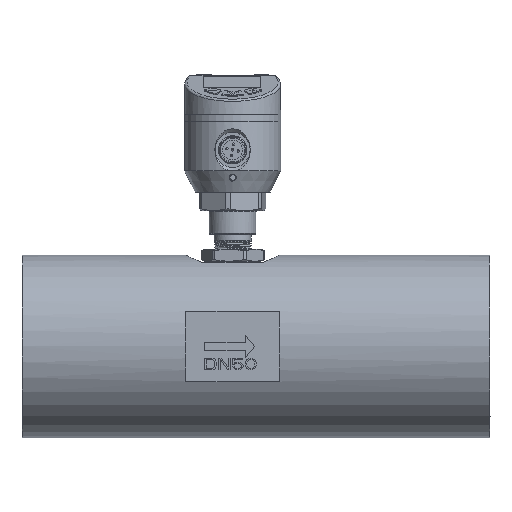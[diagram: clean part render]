
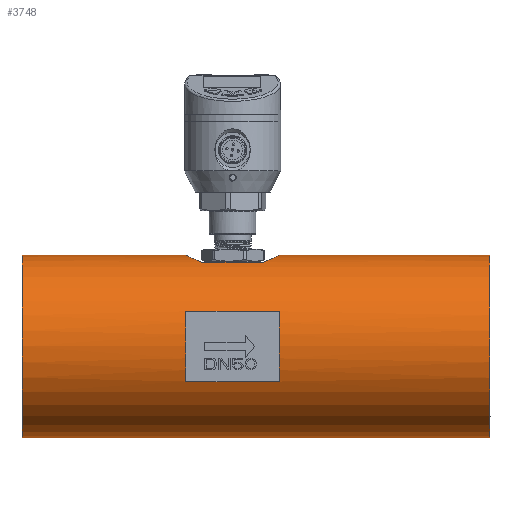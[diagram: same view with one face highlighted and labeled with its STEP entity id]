
A CAD part, left-side view. The second image highlights one B-rep face of the part: STEP entity #3748.
In plain terms, the highlighted cylindrical face has radius 39 mm (diameter 78 mm), a full revolution.
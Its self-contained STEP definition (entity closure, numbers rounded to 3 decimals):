
#1950=LINE('',#17600,#2715);
#1951=LINE('',#17605,#2716);
#1952=LINE('',#17611,#2717);
#1953=LINE('',#17615,#2718);
#1954=LINE('',#17616,#2719);
#1955=LINE('',#17629,#2720);
#2715=VECTOR('',#12142,1.);
#2716=VECTOR('',#12145,1.);
#2717=VECTOR('',#12150,1.);
#2718=VECTOR('',#12153,1.);
#2719=VECTOR('',#12154,1.);
#2720=VECTOR('',#12155,1.);
#3541=FACE_BOUND('',#4966,.T.);
#3542=FACE_BOUND('',#4967,.T.);
#3543=FACE_BOUND('',#4968,.T.);
#3544=FACE_BOUND('',#4969,.T.);
#3545=FACE_BOUND('',#4970,.T.);
#3748=ADVANCED_FACE('',(#3541,#3542,#3543,#3544,#3545),#4307,.T.);
#4307=CYLINDRICAL_SURFACE('',#11231,39.);
#4966=EDGE_LOOP('',(#6092));
#4967=EDGE_LOOP('',(#6093));
#4968=EDGE_LOOP('',(#6094,#6095,#6096,#6097));
#4969=EDGE_LOOP('',(#6098,#6099,#6100,#6101));
#4970=EDGE_LOOP('',(#6102,#6103,#6104,#6105));
#5629=CIRCLE('',#11224,39.);
#5630=CIRCLE('',#11226,39.);
#5631=CIRCLE('',#11227,39.);
#5632=CIRCLE('',#11228,39.);
#5633=CIRCLE('',#11229,39.);
#5634=CIRCLE('',#11230,39.);
#6092=ORIENTED_EDGE('',*,*,#9674,.T.);
#6093=ORIENTED_EDGE('',*,*,#9675,.T.);
#6094=ORIENTED_EDGE('',*,*,#9676,.F.);
#6095=ORIENTED_EDGE('',*,*,#9677,.T.);
#6096=ORIENTED_EDGE('',*,*,#9678,.F.);
#6097=ORIENTED_EDGE('',*,*,#9679,.T.);
#6098=ORIENTED_EDGE('',*,*,#9680,.T.);
#6099=ORIENTED_EDGE('',*,*,#9681,.F.);
#6100=ORIENTED_EDGE('',*,*,#9682,.T.);
#6101=ORIENTED_EDGE('',*,*,#9683,.F.);
#6102=ORIENTED_EDGE('',*,*,#9610,.F.);
#6103=ORIENTED_EDGE('',*,*,#9684,.F.);
#6104=ORIENTED_EDGE('',*,*,#9685,.T.);
#6105=ORIENTED_EDGE('',*,*,#9686,.F.);
#8713=VERTEX_POINT('',#14654);
#8714=VERTEX_POINT('',#14655);
#8757=VERTEX_POINT('',#17596);
#8758=VERTEX_POINT('',#17599);
#8759=VERTEX_POINT('',#17601);
#8760=VERTEX_POINT('',#17602);
#8761=VERTEX_POINT('',#17604);
#8762=VERTEX_POINT('',#17606);
#8763=VERTEX_POINT('',#17609);
#8764=VERTEX_POINT('',#17610);
#8765=VERTEX_POINT('',#17612);
#8766=VERTEX_POINT('',#17614);
#8767=VERTEX_POINT('',#17617);
#8768=VERTEX_POINT('',#17628);
#9610=EDGE_CURVE('',#8713,#8714,#10975,.T.);
#9674=EDGE_CURVE('',#8757,#8757,#5629,.T.);
#9675=EDGE_CURVE('',#8758,#8758,#5630,.T.);
#9676=EDGE_CURVE('',#8759,#8760,#1950,.T.);
#9677=EDGE_CURVE('',#8759,#8761,#5631,.T.);
#9678=EDGE_CURVE('',#8762,#8761,#1951,.T.);
#9679=EDGE_CURVE('',#8762,#8760,#5632,.T.);
#9680=EDGE_CURVE('',#8763,#8764,#5633,.T.);
#9681=EDGE_CURVE('',#8765,#8764,#1952,.T.);
#9682=EDGE_CURVE('',#8765,#8766,#5634,.T.);
#9683=EDGE_CURVE('',#8763,#8766,#1953,.T.);
#9684=EDGE_CURVE('',#8767,#8713,#1954,.T.);
#9685=EDGE_CURVE('',#8767,#8768,#11028,.T.);
#9686=EDGE_CURVE('',#8714,#8768,#1955,.T.);
#10975=B_SPLINE_CURVE_WITH_KNOTS('',3,(#14644,#14645,#14646,#14647,#14648,
#14649,#14650,#14651,#14652,#14653),.UNSPECIFIED.,.F.,.F.,(4,2,2,2,4),(0.,
0.25,0.5,0.75,1.),.UNSPECIFIED.);
#11028=B_SPLINE_CURVE_WITH_KNOTS('',3,(#17618,#17619,#17620,#17621,#17622,
#17623,#17624,#17625,#17626,#17627),.UNSPECIFIED.,.F.,.F.,(4,2,2,2,4),(0.,
0.25,0.5,0.75,1.),.UNSPECIFIED.);
#11224=AXIS2_PLACEMENT_3D('',#17595,#12136,#12137);
#11226=AXIS2_PLACEMENT_3D('',#17598,#12140,#12141);
#11227=AXIS2_PLACEMENT_3D('',#17603,#12143,#12144);
#11228=AXIS2_PLACEMENT_3D('',#17607,#12146,#12147);
#11229=AXIS2_PLACEMENT_3D('',#17608,#12148,#12149);
#11230=AXIS2_PLACEMENT_3D('',#17613,#12151,#12152);
#11231=AXIS2_PLACEMENT_3D('',#17630,#12156,#12157);
#12136=DIRECTION('',(0.,1.,0.));
#12137=DIRECTION('',(-1.,0.,0.));
#12140=DIRECTION('',(0.,-1.,0.));
#12141=DIRECTION('',(-1.,0.,0.));
#12142=DIRECTION('',(0.,-1.,0.));
#12143=DIRECTION('',(0.,1.,0.));
#12144=DIRECTION('',(1.,0.,0.));
#12145=DIRECTION('',(0.,1.,0.));
#12146=DIRECTION('',(0.,-1.,0.));
#12147=DIRECTION('',(0.923,0.,-0.385));
#12148=DIRECTION('',(0.,1.,0.));
#12149=DIRECTION('',(-0.923,0.,-0.385));
#12150=DIRECTION('',(0.,1.,0.));
#12151=DIRECTION('',(0.,-1.,0.));
#12152=DIRECTION('',(-1.,0.,0.));
#12153=DIRECTION('',(0.,-1.,0.));
#12154=DIRECTION('',(0.,-1.,0.));
#12155=DIRECTION('',(0.,1.,0.));
#12156=DIRECTION('',(0.,-1.,0.));
#12157=DIRECTION('',(-1.,0.,0.));
#14644=CARTESIAN_POINT('',(10.5,23.171,-94.));
#14645=CARTESIAN_POINT('',(12.35,21.073,-93.229));
#14646=CARTESIAN_POINT('',(14.614,19.388,-92.459));
#14647=CARTESIAN_POINT('',(19.732,17.044,-91.34));
#14648=CARTESIAN_POINT('',(22.584,16.401,-91.001));
#14649=CARTESIAN_POINT('',(28.399,16.399,-90.999));
#14650=CARTESIAN_POINT('',(31.247,17.038,-91.337));
#14651=CARTESIAN_POINT('',(36.37,19.377,-92.454));
#14652=CARTESIAN_POINT('',(38.649,21.072,-93.229));
#14653=CARTESIAN_POINT('',(40.5,23.171,-94.));
#14654=CARTESIAN_POINT('',(10.5,23.171,-94.));
#14655=CARTESIAN_POINT('',(40.5,23.171,-94.));
#17595=CARTESIAN_POINT('',(25.5,-73.6,-130.));
#17596=CARTESIAN_POINT('',(-13.5,-73.6,-130.));
#17598=CARTESIAN_POINT('',(25.5,126.4,-130.));
#17599=CARTESIAN_POINT('',(-13.5,126.4,-130.));
#17600=CARTESIAN_POINT('',(61.5,56.4,-115.));
#17601=CARTESIAN_POINT('',(61.5,56.4,-115.));
#17602=CARTESIAN_POINT('',(61.5,16.4,-115.));
#17603=CARTESIAN_POINT('',(25.5,56.4,-130.));
#17604=CARTESIAN_POINT('',(61.5,56.4,-145.));
#17605=CARTESIAN_POINT('',(61.5,16.4,-145.));
#17606=CARTESIAN_POINT('',(61.5,16.4,-145.));
#17607=CARTESIAN_POINT('',(25.5,16.4,-130.));
#17608=CARTESIAN_POINT('',(25.5,56.4,-130.));
#17609=CARTESIAN_POINT('',(-10.5,56.4,-145.));
#17610=CARTESIAN_POINT('',(-10.5,56.4,-115.));
#17611=CARTESIAN_POINT('',(-10.5,16.4,-115.));
#17612=CARTESIAN_POINT('',(-10.5,16.4,-115.));
#17613=CARTESIAN_POINT('',(25.5,16.4,-130.));
#17614=CARTESIAN_POINT('',(-10.5,16.4,-145.));
#17615=CARTESIAN_POINT('',(-10.5,56.4,-145.));
#17616=CARTESIAN_POINT('',(10.5,49.629,-94.));
#17617=CARTESIAN_POINT('',(10.5,49.629,-94.));
#17618=CARTESIAN_POINT('',(10.5,49.629,-94.));
#17619=CARTESIAN_POINT('',(12.352,51.728,-93.228));
#17620=CARTESIAN_POINT('',(14.617,53.414,-92.458));
#17621=CARTESIAN_POINT('',(19.739,55.758,-91.339));
#17622=CARTESIAN_POINT('',(22.614,56.397,-91.002));
#17623=CARTESIAN_POINT('',(28.339,56.403,-90.998));
#17624=CARTESIAN_POINT('',(31.213,55.776,-91.33));
#17625=CARTESIAN_POINT('',(36.384,53.418,-92.456));
#17626=CARTESIAN_POINT('',(38.648,51.729,-93.228));
#17627=CARTESIAN_POINT('',(40.5,49.629,-94.));
#17628=CARTESIAN_POINT('',(40.5,49.629,-94.));
#17629=CARTESIAN_POINT('',(40.5,23.171,-94.));
#17630=CARTESIAN_POINT('',(25.5,136.4,-130.));
